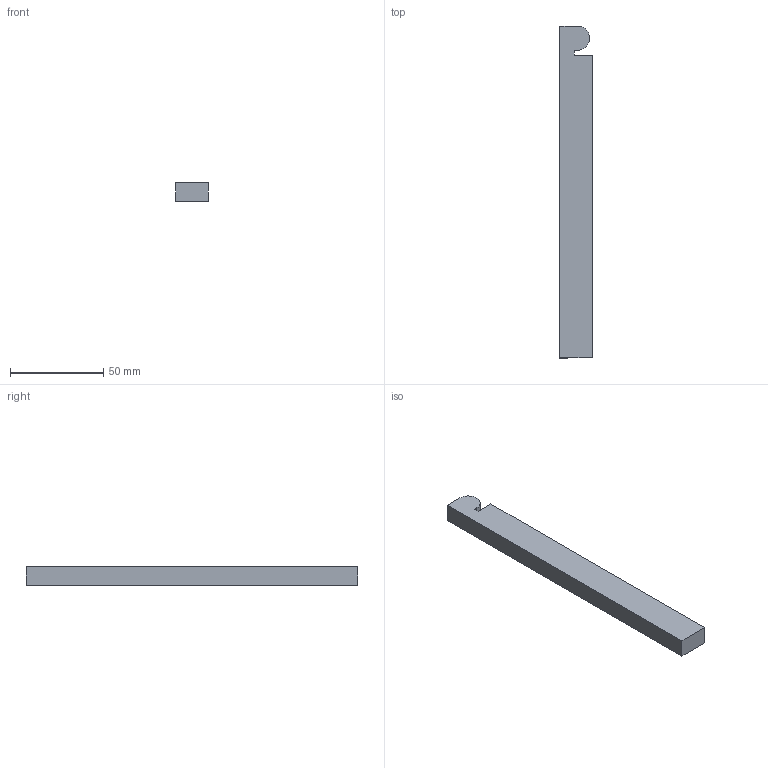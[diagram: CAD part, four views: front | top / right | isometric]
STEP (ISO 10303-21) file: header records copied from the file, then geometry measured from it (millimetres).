
FILE_DESCRIPTION (( 'STEP AP203' ), '1' );
FILE_NAME ('AB111-7FJ.STEP', '2024-02-17T09:11:55', ( '' ), ( '' ), 'SwSTEP 2.0', 'SolidWorks 2020', '' );
FILE_SCHEMA (( 'CONFIG_CONTROL_DESIGN' ));
Length unit declared in the file: millimetre
Products named in the file (1): AB111-7FJ
Bounding box: 17.34 x 177.59 x 10 mm (x, y, z)
Volume: 30153.3 mm3; surface area: 10037.8 mm2
Topology: 1 solids, 1 shells, 11 faces, 27 edges, 18 vertices
Faces by surface type: plane 10, cylinder 1
Entity records: 400 total; most frequent: CARTESIAN_POINT 57, ORIENTED_EDGE 54, DIRECTION 53, EDGE_CURVE 27, LINE 25, VECTOR 25, VERTEX_POINT 18, AXIS2_PLACEMENT_3D 14
